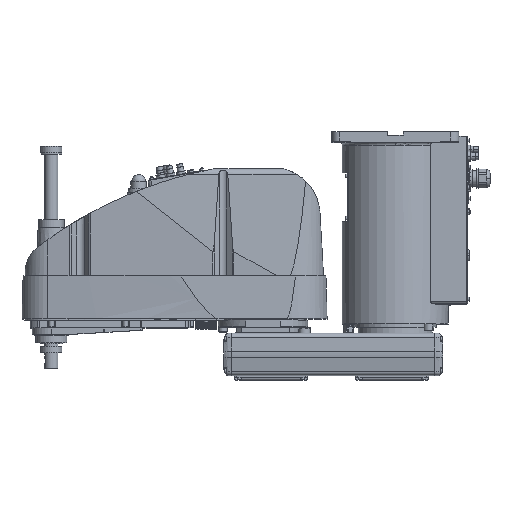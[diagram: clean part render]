
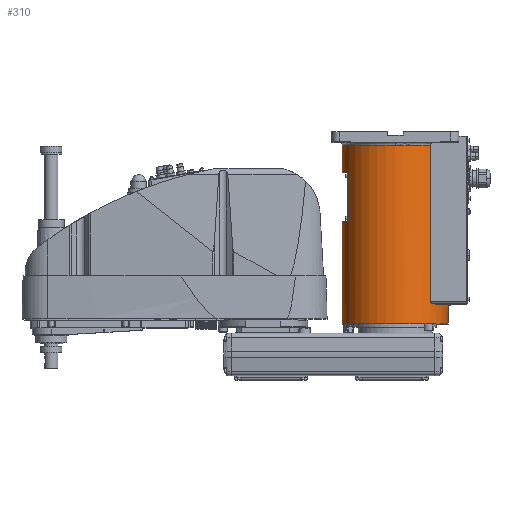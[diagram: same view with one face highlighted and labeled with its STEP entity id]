
A CAD part, top view. The second image highlights one B-rep face of the part: STEP entity #310.
In plain terms, the highlighted cylindrical face has radius 100 mm (diameter 200 mm), a partial arc.
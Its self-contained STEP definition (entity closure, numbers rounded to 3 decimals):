
#310 = ADVANCED_FACE( '', ( #2329 ), #2330, .T. );
#2329 = FACE_OUTER_BOUND( '', #6485, .T. );
#2330 = CYLINDRICAL_SURFACE( '', #6486, 100. );
#6485 = EDGE_LOOP( '', ( #11110, #11111, #11112, #11113, #11114, #11115, #11116, #11117, #11118, #11119, #11120, #11121, #11122, #11123, #11124, #11125 ) );
#6486 = AXIS2_PLACEMENT_3D( '', #11126, #11127, #11128 );
#11110 = ORIENTED_EDGE( '', *, *, #26051, .F. );
#11111 = ORIENTED_EDGE( '', *, *, #26052, .T. );
#11112 = ORIENTED_EDGE( '', *, *, #26053, .T. );
#11113 = ORIENTED_EDGE( '', *, *, #26054, .T. );
#11114 = ORIENTED_EDGE( '', *, *, #26055, .T. );
#11115 = ORIENTED_EDGE( '', *, *, #26056, .T. );
#11116 = ORIENTED_EDGE( '', *, *, #26057, .T. );
#11117 = ORIENTED_EDGE( '', *, *, #26058, .T. );
#11118 = ORIENTED_EDGE( '', *, *, #26059, .T. );
#11119 = ORIENTED_EDGE( '', *, *, #25728, .T. );
#11120 = ORIENTED_EDGE( '', *, *, #26060, .F. );
#11121 = ORIENTED_EDGE( '', *, *, #26061, .T. );
#11122 = ORIENTED_EDGE( '', *, *, #26062, .T. );
#11123 = ORIENTED_EDGE( '', *, *, #26063, .T. );
#11124 = ORIENTED_EDGE( '', *, *, #26064, .F. );
#11125 = ORIENTED_EDGE( '', *, *, #26065, .F. );
#11126 = CARTESIAN_POINT( '', ( 0., 194., 0. ) );
#11127 = DIRECTION( '', ( 0., 1., 0. ) );
#11128 = DIRECTION( '', ( 1., 0., 0. ) );
#25728 = EDGE_CURVE( '', #30515, #30518, #30520, .T. );
#26051 = EDGE_CURVE( '', #31148, #31149, #31150, .T. );
#26052 = EDGE_CURVE( '', #31148, #31151, #31152, .T. );
#26053 = EDGE_CURVE( '', #31151, #31153, #31154, .T. );
#26054 = EDGE_CURVE( '', #31153, #31155, #31156, .T. );
#26055 = EDGE_CURVE( '', #31155, #31157, #31158, .T. );
#26056 = EDGE_CURVE( '', #31157, #31159, #31160, .T. );
#26057 = EDGE_CURVE( '', #31159, #31161, #31162, .T. );
#26058 = EDGE_CURVE( '', #31161, #31163, #31164, .T. );
#26059 = EDGE_CURVE( '', #31163, #30515, #31165, .T. );
#26060 = EDGE_CURVE( '', #31166, #30518, #31167, .T. );
#26061 = EDGE_CURVE( '', #31166, #31168, #31169, .T. );
#26062 = EDGE_CURVE( '', #31168, #31170, #31171, .T. );
#26063 = EDGE_CURVE( '', #31170, #31172, #31173, .T. );
#26064 = EDGE_CURVE( '', #31174, #31172, #31175, .T. );
#26065 = EDGE_CURVE( '', #31149, #31174, #31176, .T. );
#30515 = VERTEX_POINT( '', #38351 );
#30518 = VERTEX_POINT( '', #38354 );
#30520 = CIRCLE( '', #38356, 100. );
#31148 = VERTEX_POINT( '', #39138 );
#31149 = VERTEX_POINT( '', #39139 );
#31150 = LINE( '', #39140, #39141 );
#31151 = VERTEX_POINT( '', #39142 );
#31152 = CIRCLE( '', #39143, 100. );
#31153 = VERTEX_POINT( '', #39144 );
#31154 = LINE( '', #39145, #39146 );
#31155 = VERTEX_POINT( '', #39147 );
#31156 = CIRCLE( '', #39148, 100. );
#31157 = VERTEX_POINT( '', #39149 );
#31158 = LINE( '', #39150, #39151 );
#31159 = VERTEX_POINT( '', #39152 );
#31160 = CIRCLE( '', #39153, 100. );
#31161 = VERTEX_POINT( '', #39154 );
#31162 = B_SPLINE_CURVE_WITH_KNOTS( '', 3, ( #39155, #39156, #39157, #39158, #39159, #39160, #39161, #39162, #39163, #39164, #39165, #39166, #39167, #39168, #39169, #39170, #39171, #39172 ), .UNSPECIFIED., .F., .F., ( 4, 2, 2, 2, 2, 2, 2, 2, 4 ), ( -7.48, -6.36, -5.24, -4.12, -3., -2.25, -1.5, -0.75, 0. ), .UNSPECIFIED. );
#31163 = VERTEX_POINT( '', #39173 );
#31164 = LINE( '', #39174, #39175 );
#31165 = CIRCLE( '', #39176, 100. );
#31166 = VERTEX_POINT( '', #39177 );
#31167 = LINE( '', #39178, #39179 );
#31168 = VERTEX_POINT( '', #39180 );
#31169 = CIRCLE( '', #39181, 100. );
#31170 = VERTEX_POINT( '', #39182 );
#31171 = LINE( '', #39183, #39184 );
#31172 = VERTEX_POINT( '', #39185 );
#31173 = CIRCLE( '', #39186, 100. );
#31174 = VERTEX_POINT( '', #39187 );
#31175 = LINE( '', #39188, #39189 );
#31176 = CIRCLE( '', #39190, 100. );
#38351 = CARTESIAN_POINT( '', ( 0., 363., 100. ) );
#38354 = CARTESIAN_POINT( '', ( -100., 363., 0. ) );
#38356 = AXIS2_PLACEMENT_3D( '', #50972, #50973, #50974 );
#39138 = CARTESIAN_POINT( '', ( 100., 64., 0. ) );
#39139 = CARTESIAN_POINT( '', ( 100., 25., 0. ) );
#39140 = CARTESIAN_POINT( '', ( 100., 194., 0. ) );
#39141 = VECTOR( '', #51633, 1. );
#39142 = CARTESIAN_POINT( '', ( 89.303, 64., 45. ) );
#39143 = AXIS2_PLACEMENT_3D( '', #51634, #51635, #51636 );
#39144 = CARTESIAN_POINT( '', ( 89.303, 62., 45. ) );
#39145 = CARTESIAN_POINT( '', ( 89.303, 63., 45. ) );
#39146 = VECTOR( '', #51637, 1. );
#39147 = CARTESIAN_POINT( '', ( 75.993, 62., 65. ) );
#39148 = AXIS2_PLACEMENT_3D( '', #51638, #51639, #51640 );
#39149 = CARTESIAN_POINT( '', ( 75.993, 64., 65. ) );
#39150 = CARTESIAN_POINT( '', ( 75.993, 63., 65. ) );
#39151 = VECTOR( '', #51641, 1. );
#39152 = CARTESIAN_POINT( '', ( 70.42, 64., 71. ) );
#39153 = AXIS2_PLACEMENT_3D( '', #51642, #51643, #51644 );
#39154 = CARTESIAN_POINT( '', ( 66.144, 68., 75. ) );
#39155 = CARTESIAN_POINT( '', ( 70.42, 64., 71. ) );
#39156 = CARTESIAN_POINT( '', ( 70.155, 64., 71.263 ) );
#39157 = CARTESIAN_POINT( '', ( 69.877, 64.026, 71.535 ) );
#39158 = CARTESIAN_POINT( '', ( 69.316, 64.139, 72.08 ) );
#39159 = CARTESIAN_POINT( '', ( 69.031, 64.224, 72.352 ) );
#39160 = CARTESIAN_POINT( '', ( 68.475, 64.457, 72.879 ) );
#39161 = CARTESIAN_POINT( '', ( 68.203, 64.604, 73.134 ) );
#39162 = CARTESIAN_POINT( '', ( 67.688, 64.954, 73.61 ) );
#39163 = CARTESIAN_POINT( '', ( 67.446, 65.158, 73.831 ) );
#39164 = CARTESIAN_POINT( '', ( 67.082, 65.542, 74.162 ) );
#39165 = CARTESIAN_POINT( '', ( 66.938, 65.716, 74.292 ) );
#39166 = CARTESIAN_POINT( '', ( 66.674, 66.103, 74.529 ) );
#39167 = CARTESIAN_POINT( '', ( 66.555, 66.315, 74.636 ) );
#39168 = CARTESIAN_POINT( '', ( 66.356, 66.766, 74.812 ) );
#39169 = CARTESIAN_POINT( '', ( 66.277, 67.005, 74.882 ) );
#39170 = CARTESIAN_POINT( '', ( 66.171, 67.497, 74.976 ) );
#39171 = CARTESIAN_POINT( '', ( 66.144, 67.75, 75. ) );
#39172 = CARTESIAN_POINT( '', ( 66.144, 68., 75. ) );
#39173 = CARTESIAN_POINT( '', ( 66.144, 363., 75. ) );
#39174 = CARTESIAN_POINT( '', ( 66.144, 215.5, 75. ) );
#39175 = VECTOR( '', #51645, 1. );
#39176 = AXIS2_PLACEMENT_3D( '', #51646, #51647, #51648 );
#39177 = CARTESIAN_POINT( '', ( -100., 311.3, 0. ) );
#39178 = CARTESIAN_POINT( '', ( -100., 194., 0. ) );
#39179 = VECTOR( '', #51649, 1. );
#39180 = CARTESIAN_POINT( '', ( -88., 311.3, 47.497 ) );
#39181 = AXIS2_PLACEMENT_3D( '', #51650, #51651, #51652 );
#39182 = CARTESIAN_POINT( '', ( -88., 218.3, 47.497 ) );
#39183 = CARTESIAN_POINT( '', ( -88., 264.8, 47.497 ) );
#39184 = VECTOR( '', #51653, 1. );
#39185 = CARTESIAN_POINT( '', ( -100., 218.3, 0. ) );
#39186 = AXIS2_PLACEMENT_3D( '', #51654, #51655, #51656 );
#39187 = CARTESIAN_POINT( '', ( -100., 25., 0. ) );
#39188 = CARTESIAN_POINT( '', ( -100., 194., 0. ) );
#39189 = VECTOR( '', #51657, 1. );
#39190 = AXIS2_PLACEMENT_3D( '', #51658, #51659, #51660 );
#50972 = CARTESIAN_POINT( '', ( 0., 363., 0. ) );
#50973 = DIRECTION( '', ( 0., -1., 0. ) );
#50974 = DIRECTION( '', ( 1., 0., 0. ) );
#51633 = DIRECTION( '', ( 0., -1., 0. ) );
#51634 = CARTESIAN_POINT( '', ( 0., 64., 0. ) );
#51635 = DIRECTION( '', ( 0., -1., 0. ) );
#51636 = DIRECTION( '', ( 1., 0., 0. ) );
#51637 = DIRECTION( '', ( 0., -1., 0. ) );
#51638 = CARTESIAN_POINT( '', ( 0., 62., 0. ) );
#51639 = DIRECTION( '', ( 0., -1., 0. ) );
#51640 = DIRECTION( '', ( 1., 0., 0. ) );
#51641 = DIRECTION( '', ( 0., 1., 0. ) );
#51642 = CARTESIAN_POINT( '', ( 0., 64., 0. ) );
#51643 = DIRECTION( '', ( 0., -1., 0. ) );
#51644 = DIRECTION( '', ( 1., 0., 0. ) );
#51645 = DIRECTION( '', ( 0., 1., 0. ) );
#51646 = CARTESIAN_POINT( '', ( 0., 363., 0. ) );
#51647 = DIRECTION( '', ( 0., -1., 0. ) );
#51648 = DIRECTION( '', ( 1., 0., 0. ) );
#51649 = DIRECTION( '', ( 0., 1., 0. ) );
#51650 = CARTESIAN_POINT( '', ( 0., 311.3, 0. ) );
#51651 = DIRECTION( '', ( 0., 1., 0. ) );
#51652 = DIRECTION( '', ( 1., 0., 0. ) );
#51653 = DIRECTION( '', ( 0., -1., 0. ) );
#51654 = CARTESIAN_POINT( '', ( 0., 218.3, 0. ) );
#51655 = DIRECTION( '', ( 0., -1., 0. ) );
#51656 = DIRECTION( '', ( 1., 0., 0. ) );
#51657 = DIRECTION( '', ( 0., 1., 0. ) );
#51658 = CARTESIAN_POINT( '', ( 0., 25., 0. ) );
#51659 = DIRECTION( '', ( 0., -1., 0. ) );
#51660 = DIRECTION( '', ( 1., 0., 0. ) );
